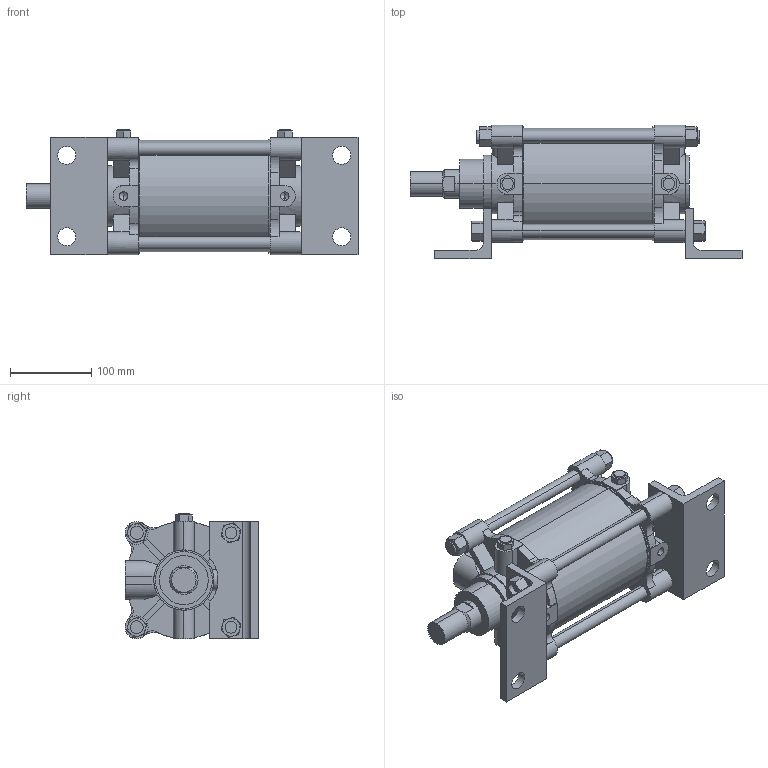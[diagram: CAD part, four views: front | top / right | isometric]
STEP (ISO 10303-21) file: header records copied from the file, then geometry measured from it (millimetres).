
FILE_DESCRIPTION (( 'STEP AP203' ), '1' );
FILE_NAME ('A##2-125#-100-L.STEP', '2016-03-31T06:51:27', ( '' ), ( '' ), 'SwSTEP 2.0', 'SolidWorks 2014', '' );
FILE_SCHEMA (( 'CONFIG_CONTROL_DESIGN' ));
Length unit declared in the file: millimetre
Products named in the file (7): A125-A; A125-100; A##2-125#-100-L; A125-L; A125-B
Assembly tree (17 placements, depth 2):
  A##2-125#-100-L
    A125-B
    A125-100
    A125-A
    (unnamed)  x8
    (unnamed)  x4
    A125-L  x2
Bounding box: 408 x 164 x 154 mm (x, y, z)
Volume: 4021771.3 mm3; surface area: 431306.3 mm2
Topology: 17 solids, 19 shells, 424 faces, 1068 edges, 684 vertices
Faces by surface type: plane 202, cylinder 160, torus 48, cone 14
Entity records: 10345 total; most frequent: CARTESIAN_POINT 2059, DIRECTION 1615, ORIENTED_EDGE 1470, EDGE_CURVE 735, AXIS2_PLACEMENT_3D 613, VERTEX_POINT 484, LINE 389, VECTOR 389
